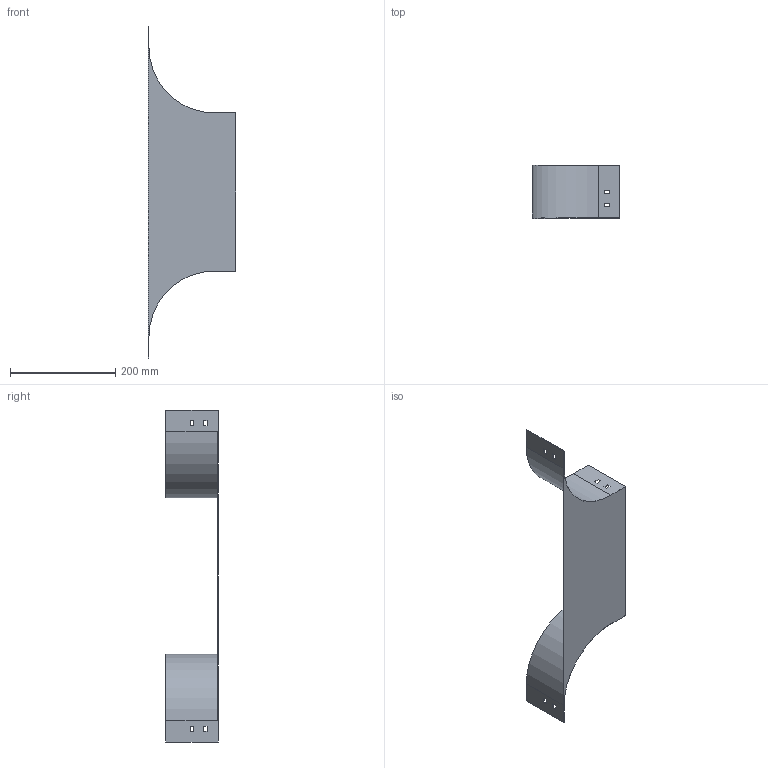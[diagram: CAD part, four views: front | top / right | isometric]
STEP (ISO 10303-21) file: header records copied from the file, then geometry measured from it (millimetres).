
FILE_DESCRIPTION (( 'STEP AP214' ), '1' );
FILE_NAME ('RL_301.step', '2025-07-16T09:25:16', ( '' ), ( '' ), 'SwSTEP 2.0', 'SolidWorks 2023', '' );
FILE_SCHEMA (( 'AUTOMOTIVE_DESIGN' ));
Length unit declared in the file: millimetre
Products named in the file (1): RL_301
Bounding box: 166.5 x 100 x 630 mm (x, y, z)
Volume: 166896.4 mm3; surface area: 225756.1 mm2
Topology: 1 solids, 1 shells, 50 faces, 144 edges, 96 vertices
Faces by surface type: plane 46, cylinder 4
Entity records: 1671 total; most frequent: CARTESIAN_POINT 291, ORIENTED_EDGE 288, DIRECTION 254, EDGE_CURVE 144, VECTOR 136, LINE 136, VERTEX_POINT 96, EDGE_LOOP 66
